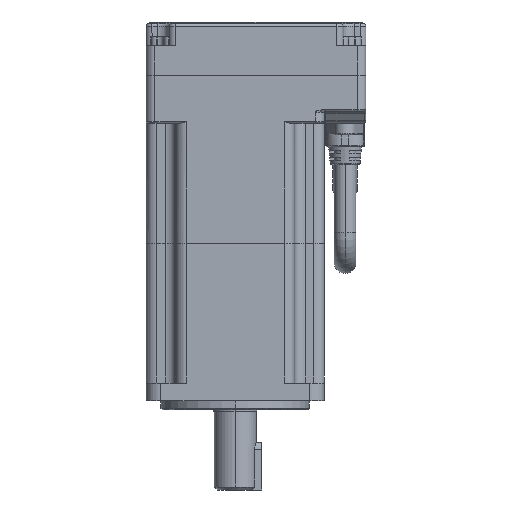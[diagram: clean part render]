
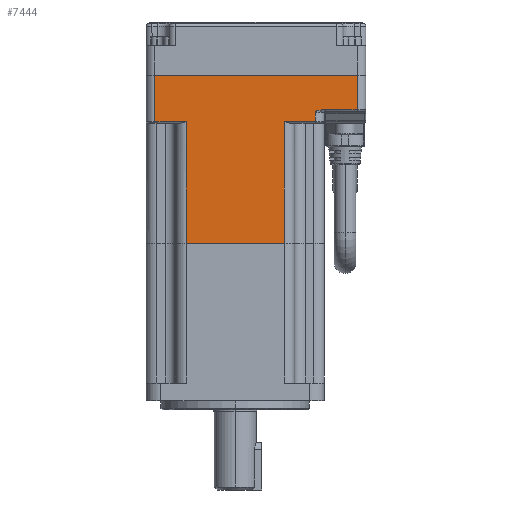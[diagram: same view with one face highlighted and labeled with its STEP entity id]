
A CAD part, left-side view. The second image highlights one B-rep face of the part: STEP entity #7444.
In plain terms, the highlighted planar face has unit normal (-1, 0, 0).
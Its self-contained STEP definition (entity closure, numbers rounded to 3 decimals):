
#5671=DIRECTION('',(0.,0.,1.));
#5672=VECTOR('',#5671,15.5);
#5673=CARTESIAN_POINT('',(-30.,125.745,159.228));
#5674=LINE('',#5673,#5672);
#5679=CARTESIAN_POINT('',(-30.,71.745,162.228));
#5680=CARTESIAN_POINT('',(-30.,71.745,162.243));
#5681=CARTESIAN_POINT('',(-30.,71.744,162.289));
#5682=CARTESIAN_POINT('',(-30.,71.736,162.366));
#5683=CARTESIAN_POINT('',(-30.,71.716,162.458));
#5684=CARTESIAN_POINT('',(-30.,71.687,162.543));
#5685=CARTESIAN_POINT('',(-30.,71.648,162.623));
#5686=CARTESIAN_POINT('',(-30.,71.601,162.694));
#5687=CARTESIAN_POINT('',(-30.,71.548,162.758));
#5688=CARTESIAN_POINT('',(-30.,71.488,162.813));
#5689=CARTESIAN_POINT('',(-30.,71.423,162.862));
#5690=CARTESIAN_POINT('',(-30.,71.35,162.905));
#5691=CARTESIAN_POINT('',(-30.,71.267,162.943));
#5692=CARTESIAN_POINT('',(-30.,71.173,162.975));
#5693=CARTESIAN_POINT('',(-30.,71.066,163.001));
#5694=CARTESIAN_POINT('',(-30.,70.946,163.022));
#5695=CARTESIAN_POINT('',(-30.,70.812,163.037));
#5696=CARTESIAN_POINT('',(-30.,70.663,163.048));
#5697=CARTESIAN_POINT('',(-30.,70.495,163.06));
#5698=CARTESIAN_POINT('',(-30.,70.305,163.076));
#5699=CARTESIAN_POINT('',(-30.,70.095,163.101));
#5700=CARTESIAN_POINT('',(-30.,69.879,163.134));
#5701=CARTESIAN_POINT('',(-30.,69.672,163.167));
#5702=CARTESIAN_POINT('',(-30.,69.482,163.195));
#5703=CARTESIAN_POINT('',(-30.,69.31,163.217));
#5704=CARTESIAN_POINT('',(-30.,69.156,163.231));
#5705=CARTESIAN_POINT('',(-30.,69.017,163.24));
#5706=CARTESIAN_POINT('',(-30.,68.893,163.244));
#5707=CARTESIAN_POINT('',(-30.,68.781,163.244));
#5708=CARTESIAN_POINT('',(-30.,68.679,163.242));
#5709=CARTESIAN_POINT('',(-30.,68.583,163.239));
#5710=CARTESIAN_POINT('',(-30.,68.491,163.235));
#5711=CARTESIAN_POINT('',(-30.,68.402,163.231));
#5712=CARTESIAN_POINT('',(-30.,68.32,163.229));
#5713=CARTESIAN_POINT('',(-30.,68.268,163.228));
#5714=CARTESIAN_POINT('',(-30.,68.245,163.228));
#5716=DIRECTION('',(0.,1.,0.));
#5717=VECTOR('',#5716,33.);
#5718=CARTESIAN_POINT('',(-30.,82.245,118.228));
#5719=LINE('',#5718,#5717);
#5720=DIRECTION('',(0.,1.,0.));
#5721=VECTOR('',#5720,68.);
#5722=CARTESIAN_POINT('',(-30.,57.745,174.728));
#5723=LINE('',#5722,#5721);
#5728=DIRECTION('',(0.,0.,-1.));
#5729=VECTOR('',#5728,11.5);
#5730=CARTESIAN_POINT('',(-30.,57.745,174.728));
#5731=LINE('',#5730,#5729);
#5751=DIRECTION('',(0.,1.,0.));
#5752=VECTOR('',#5751,10.5);
#5753=CARTESIAN_POINT('',(-30.,57.745,163.228));
#5754=LINE('',#5753,#5752);
#5781=DIRECTION('',(0.,0.,-1.));
#5782=VECTOR('',#5781,3.);
#5783=CARTESIAN_POINT('',(-30.,71.745,162.228));
#5784=LINE('',#5783,#5782);
#5804=CARTESIAN_POINT('',(-30.,82.245,159.228));
#5814=DIRECTION('',(0.,1.,0.));
#5815=VECTOR('',#5814,10.5);
#5816=CARTESIAN_POINT('',(-30.,71.745,159.228));
#5817=LINE('',#5816,#5815);
#5831=DIRECTION('',(0.,0.,-1.));
#5832=VECTOR('',#5831,41.);
#5833=CARTESIAN_POINT('',(-30.,82.245,159.228));
#5834=LINE('',#5833,#5832);
#6189=DIRECTION('',(0.,0.,1.));
#6190=VECTOR('',#6189,41.);
#6191=CARTESIAN_POINT('',(-30.,115.245,118.228));
#6192=LINE('',#6191,#6190);
#6215=DIRECTION('',(0.,1.,0.));
#6216=VECTOR('',#6215,10.5);
#6217=CARTESIAN_POINT('',(-30.,115.245,159.228));
#6218=LINE('',#6217,#6216);
#6644=CARTESIAN_POINT('',(-30.,125.745,174.728));
#6646=VERTEX_POINT('',#6644);
#6652=CARTESIAN_POINT('',(-30.,82.245,118.228));
#6654=VERTEX_POINT('',#6652);
#6680=VERTEX_POINT('',#5804);
#6732=VERTEX_POINT('',#5679);
#6733=VERTEX_POINT('',#5714);
#6736=CARTESIAN_POINT('',(-30.,57.745,163.228));
#6737=VERTEX_POINT('',#6736);
#6738=CARTESIAN_POINT('',(-30.,71.745,159.228));
#6739=VERTEX_POINT('',#6738);
#6764=CARTESIAN_POINT('',(-30.,115.245,118.228));
#6765=CARTESIAN_POINT('',(-30.,115.245,159.228));
#6766=VERTEX_POINT('',#6764);
#6767=VERTEX_POINT('',#6765);
#6796=CARTESIAN_POINT('',(-30.,125.745,159.228));
#6797=VERTEX_POINT('',#6796);
#6852=CARTESIAN_POINT('',(-30.,57.745,174.728));
#6853=VERTEX_POINT('',#6852);
#7416=CARTESIAN_POINT('',(-30.,128.745,157.728));
#7417=DIRECTION('',(-1.,0.,0.));
#7418=DIRECTION('',(0.,0.,1.));
#7419=AXIS2_PLACEMENT_3D('',#7416,#7417,#7418);
#7420=PLANE('',#7419);
#7422=ORIENTED_EDGE('',*,*,#7421,.T.);
#7424=ORIENTED_EDGE('',*,*,#7423,.T.);
#7426=ORIENTED_EDGE('',*,*,#7425,.F.);
#7428=ORIENTED_EDGE('',*,*,#7427,.T.);
#7430=ORIENTED_EDGE('',*,*,#7429,.T.);
#7432=ORIENTED_EDGE('',*,*,#7431,.T.);
#7434=ORIENTED_EDGE('',*,*,#7433,.T.);
#7436=ORIENTED_EDGE('',*,*,#7435,.T.);
#7438=ORIENTED_EDGE('',*,*,#7437,.T.);
#7439=ORIENTED_EDGE('',*,*,#7406,.T.);
#7441=ORIENTED_EDGE('',*,*,#7440,.F.);
#7442=EDGE_LOOP('',(#7422,#7424,#7426,#7428,#7430,#7432,#7434,#7436,#7438,#7439,
#7441));
#7443=FACE_OUTER_BOUND('',#7442,.F.);
#7444=ADVANCED_FACE('',(#7443),#7420,.T.);
#5715=B_SPLINE_CURVE_WITH_KNOTS('',3,(#5679,#5680,#5681,#5682,#5683,#5684,#5685,
#5686,#5687,#5688,#5689,#5690,#5691,#5692,#5693,#5694,#5695,#5696,#5697,#5698,
#5699,#5700,#5701,#5702,#5703,#5704,#5705,#5706,#5707,#5708,#5709,#5710,#5711,
#5712,#5713,#5714),.UNSPECIFIED.,.F.,.F.,(4,1,1,1,1,1,1,1,1,1,1,1,1,1,1,1,1,1,1,
1,1,1,1,1,1,1,1,1,1,1,1,1,1,4),(0.,0.009,0.029,
0.049,0.068,0.087,0.107,
0.126,0.146,0.166,0.187,
0.211,0.238,0.268,0.302,
0.34,0.382,0.429,0.483,
0.542,0.602,0.658,0.707,
0.751,0.789,0.823,0.853,
0.879,0.903,0.925,0.946,
0.966,0.985,1.),.UNSPECIFIED.);
#7406=EDGE_CURVE('',#6797,#6646,#5674,.T.);
#7421=EDGE_CURVE('',#6853,#6737,#5731,.T.);
#7423=EDGE_CURVE('',#6737,#6733,#5754,.T.);
#7425=EDGE_CURVE('',#6732,#6733,#5715,.T.);
#7427=EDGE_CURVE('',#6732,#6739,#5784,.T.);
#7429=EDGE_CURVE('',#6739,#6680,#5817,.T.);
#7431=EDGE_CURVE('',#6680,#6654,#5834,.T.);
#7433=EDGE_CURVE('',#6654,#6766,#5719,.T.);
#7435=EDGE_CURVE('',#6766,#6767,#6192,.T.);
#7437=EDGE_CURVE('',#6767,#6797,#6218,.T.);
#7440=EDGE_CURVE('',#6853,#6646,#5723,.T.);
